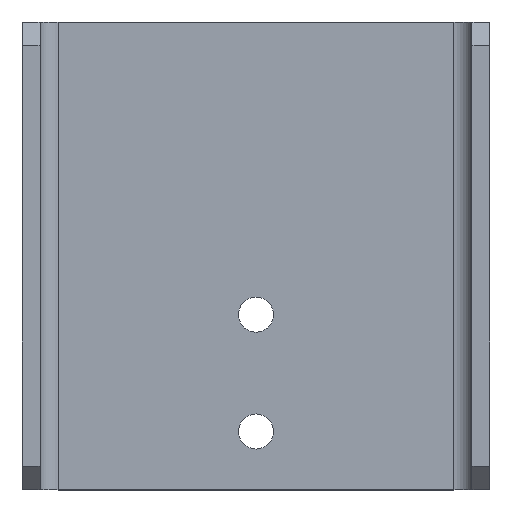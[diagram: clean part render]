
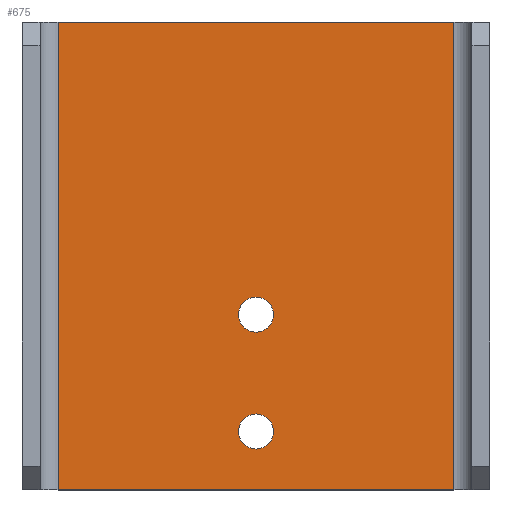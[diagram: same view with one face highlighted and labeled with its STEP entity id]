
A CAD part, top view. The second image highlights one B-rep face of the part: STEP entity #675.
In plain terms, the highlighted planar face has unit normal (0, 0, 1).
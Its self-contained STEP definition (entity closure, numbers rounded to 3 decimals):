
#61 = CIRCLE ( 'NONE', #451, 2.25 ) ;
#75 = EDGE_CURVE ( 'NONE', #754, #240, #61, .T. ) ;
#76 = ORIENTED_EDGE ( 'NONE', *, *, #1052, .F. ) ;
#97 = DIRECTION ( 'NONE',  ( 0., 0., 1. ) ) ;
#108 = EDGE_LOOP ( 'NONE', ( #274, #592 ) ) ;
#113 = AXIS2_PLACEMENT_3D ( 'NONE', #1132, #500, #865 ) ;
#136 = CARTESIAN_POINT ( 'NONE',  ( 0., 0., 2.3 ) ) ;
#149 = PLANE ( 'NONE',  #113 ) ;
#163 = CARTESIAN_POINT ( 'NONE',  ( 30., 22.5, 2.3 ) ) ;
#229 = FACE_OUTER_BOUND ( 'NONE', #878, .T. ) ;
#235 = CARTESIAN_POINT ( 'NONE',  ( 55.4, 0., 2.3 ) ) ;
#237 = ORIENTED_EDGE ( 'NONE', *, *, #1100, .F. ) ;
#238 = DIRECTION ( 'NONE',  ( 0., 0., 1. ) ) ;
#240 = VERTEX_POINT ( 'NONE', #556 ) ;
#241 = CARTESIAN_POINT ( 'NONE',  ( 4.6, 60., 2.3 ) ) ;
#252 = LINE ( 'NONE', #602, #709 ) ;
#258 = CARTESIAN_POINT ( 'NONE',  ( 27.75, 22.5, 2.3 ) ) ;
#264 = DIRECTION ( 'NONE',  ( 0., -1., 0. ) ) ;
#274 = ORIENTED_EDGE ( 'NONE', *, *, #307, .F. ) ;
#287 = EDGE_LOOP ( 'NONE', ( #363, #76 ) ) ;
#301 = DIRECTION ( 'NONE',  ( 0., 1., 0. ) ) ;
#307 = EDGE_CURVE ( 'NONE', #452, #382, #430, .T. ) ;
#363 = ORIENTED_EDGE ( 'NONE', *, *, #75, .F. ) ;
#369 = CARTESIAN_POINT ( 'NONE',  ( 30., 7.5, 2.3 ) ) ;
#382 = VERTEX_POINT ( 'NONE', #258 ) ;
#396 = CARTESIAN_POINT ( 'NONE',  ( 4.6, 0., 2.3 ) ) ;
#411 = EDGE_CURVE ( 'NONE', #1037, #918, #252, .T. ) ;
#417 = LINE ( 'NONE', #241, #1087 ) ;
#430 = CIRCLE ( 'NONE', #993, 2.25 ) ;
#451 = AXIS2_PLACEMENT_3D ( 'NONE', #369, #97, #534 ) ;
#452 = VERTEX_POINT ( 'NONE', #629 ) ;
#473 = CARTESIAN_POINT ( 'NONE',  ( 55.4, 60., 2.3 ) ) ;
#483 = AXIS2_PLACEMENT_3D ( 'NONE', #163, #598, #955 ) ;
#485 = DIRECTION ( 'NONE',  ( 0., 0., 1. ) ) ;
#486 = ORIENTED_EDGE ( 'NONE', *, *, #603, .F. ) ;
#487 = DIRECTION ( 'NONE',  ( 1., 0., 0. ) ) ;
#490 = FACE_BOUND ( 'NONE', #108, .T. ) ;
#500 = DIRECTION ( 'NONE',  ( 0., 0., -1. ) ) ;
#505 = CARTESIAN_POINT ( 'NONE',  ( 55.4, 0., 2.3 ) ) ;
#534 = DIRECTION ( 'NONE',  ( 1., 0., 0. ) ) ;
#556 = CARTESIAN_POINT ( 'NONE',  ( 27.75, 7.5, 2.3 ) ) ;
#557 = CIRCLE ( 'NONE', #615, 2.25 ) ;
#571 = VERTEX_POINT ( 'NONE', #396 ) ;
#575 = VERTEX_POINT ( 'NONE', #235 ) ;
#592 = ORIENTED_EDGE ( 'NONE', *, *, #1077, .F. ) ;
#598 = DIRECTION ( 'NONE',  ( 0., 0., 1. ) ) ;
#602 = CARTESIAN_POINT ( 'NONE',  ( 0., 60., 2.3 ) ) ;
#603 = EDGE_CURVE ( 'NONE', #571, #1037, #417, .T. ) ;
#615 = AXIS2_PLACEMENT_3D ( 'NONE', #879, #238, #1135 ) ;
#629 = CARTESIAN_POINT ( 'NONE',  ( 32.25, 22.5, 2.3 ) ) ;
#659 = FACE_BOUND ( 'NONE', #287, .T. ) ;
#663 = ORIENTED_EDGE ( 'NONE', *, *, #998, .T. ) ;
#675 = ADVANCED_FACE ( 'NONE', ( #490, #659, #229 ), #149, .F. ) ;
#681 = CARTESIAN_POINT ( 'NONE',  ( 4.6, 60., 2.3 ) ) ;
#698 = DIRECTION ( 'NONE',  ( 1., 0., 0. ) ) ;
#709 = VECTOR ( 'NONE', #698, 1000. ) ;
#754 = VERTEX_POINT ( 'NONE', #1071 ) ;
#789 = VECTOR ( 'NONE', #264, 1000. ) ;
#865 = DIRECTION ( 'NONE',  ( -1., 0., 0. ) ) ;
#878 = EDGE_LOOP ( 'NONE', ( #237, #936, #486, #663 ) ) ;
#879 = CARTESIAN_POINT ( 'NONE',  ( 30., 7.5, 2.3 ) ) ;
#918 = VERTEX_POINT ( 'NONE', #473 ) ;
#936 = ORIENTED_EDGE ( 'NONE', *, *, #411, .F. ) ;
#938 = LINE ( 'NONE', #136, #1005 ) ;
#941 = CARTESIAN_POINT ( 'NONE',  ( 30., 22.5, 2.3 ) ) ;
#955 = DIRECTION ( 'NONE',  ( 1., 0., 0. ) ) ;
#992 = CIRCLE ( 'NONE', #483, 2.25 ) ;
#993 = AXIS2_PLACEMENT_3D ( 'NONE', #941, #485, #1099 ) ;
#998 = EDGE_CURVE ( 'NONE', #571, #575, #938, .T. ) ;
#1005 = VECTOR ( 'NONE', #487, 1000. ) ;
#1037 = VERTEX_POINT ( 'NONE', #681 ) ;
#1052 = EDGE_CURVE ( 'NONE', #240, #754, #557, .T. ) ;
#1068 = LINE ( 'NONE', #505, #789 ) ;
#1071 = CARTESIAN_POINT ( 'NONE',  ( 32.25, 7.5, 2.3 ) ) ;
#1077 = EDGE_CURVE ( 'NONE', #382, #452, #992, .T. ) ;
#1087 = VECTOR ( 'NONE', #301, 1000. ) ;
#1099 = DIRECTION ( 'NONE',  ( 1., 0., 0. ) ) ;
#1100 = EDGE_CURVE ( 'NONE', #918, #575, #1068, .T. ) ;
#1132 = CARTESIAN_POINT ( 'NONE',  ( 0., 60., 2.3 ) ) ;
#1135 = DIRECTION ( 'NONE',  ( 1., 0., 0. ) ) ;
